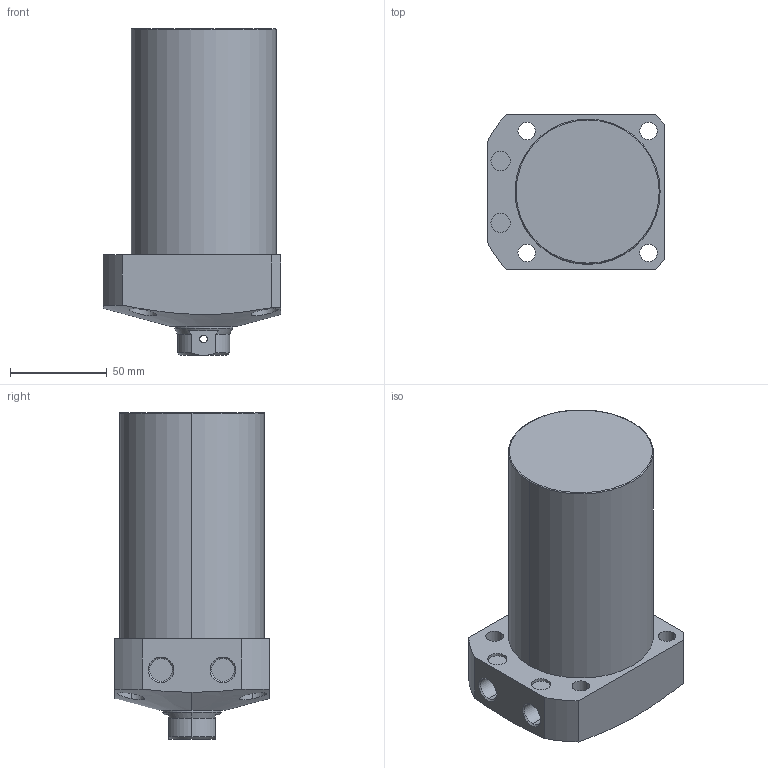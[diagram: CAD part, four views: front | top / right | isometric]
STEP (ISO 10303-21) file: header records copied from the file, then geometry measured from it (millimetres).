
FILE_DESCRIPTION (( 'STEP AP203' ), '1' );
FILE_NAME ('CLL-075CB-080.STEP', '2019-12-24T00:13:27', ( '' ), ( '' ), 'SwSTEP 2.0', 'SolidWorks 2015', '' );
FILE_SCHEMA (( 'CONFIG_CONTROL_DESIGN' ));
Length unit declared in the file: millimetre
Products named in the file (1): CLL-075CB-080
Bounding box: 92 x 80 x 169 mm (x, y, z)
Volume: 735820.6 mm3; surface area: 59980.6 mm2
Topology: 1 solids, 1 shells, 78 faces, 183 edges, 116 vertices
Faces by surface type: cylinder 39, plane 22, cone 15, torus 2
Entity records: 2862 total; most frequent: CARTESIAN_POINT 955, DIRECTION 396, ORIENTED_EDGE 362, EDGE_CURVE 181, AXIS2_PLACEMENT_3D 164, VERTEX_POINT 116, EDGE_LOOP 101, CIRCLE 85
